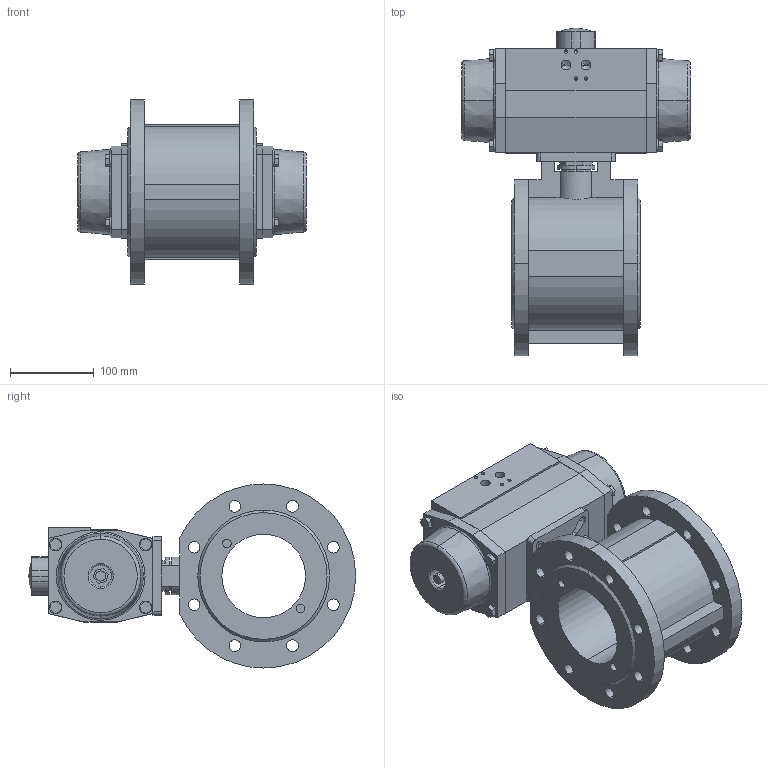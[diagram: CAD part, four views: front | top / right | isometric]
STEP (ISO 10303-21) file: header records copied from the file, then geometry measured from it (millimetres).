
FILE_DESCRIPTION (( 'STEP AP214' ), '1' );
FILE_NAME ('S15D DN100 AP4.STEP', '2012-04-24T08:14:36', ( 'Jan' ), ( '' ), 'SwSTEP 2.0', 'SolidWorks 2011', '' );
FILE_SCHEMA (( 'AUTOMOTIVE_DESIGN' ));
Length unit declared in the file: millimetre
Products named in the file (3): AP4_Default<As Machined>; S15D KK DN100 PN16; S15D DN100 AP4
Assembly tree (2 placements, depth 2):
  S15D DN100 AP4
    S15D KK DN100 PN16
    AP4_Default<As Machined>
Bounding box: 273.5 x 391.31 x 220 mm (x, y, z)
Volume: 5840882.1 mm3; surface area: 437621.9 mm2
Topology: 13 solids, 13 shells, 473 faces, 1175 edges, 732 vertices
Faces by surface type: plane 263, cylinder 150, cone 46, torus 12, sphere 2
Entity records: 16652 total; most frequent: DIRECTION 2487, CARTESIAN_POINT 2426, ORIENTED_EDGE 2274, EDGE_CURVE 1137, AXIS2_PLACEMENT_3D 875, LINE 737, VECTOR 737, VERTEX_POINT 732
